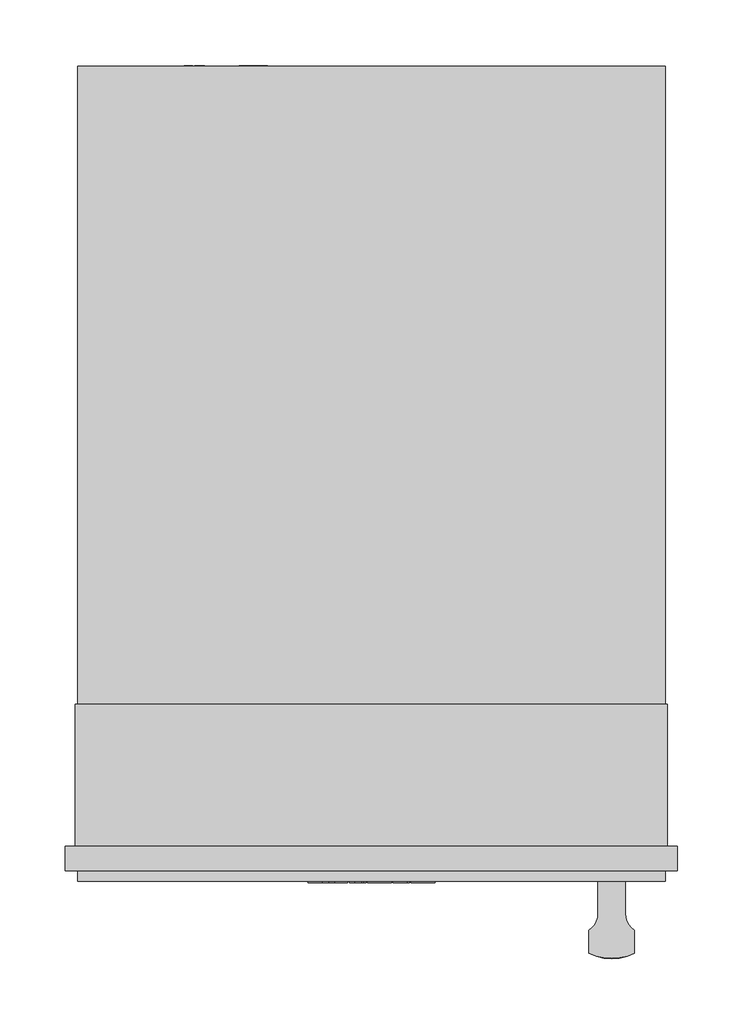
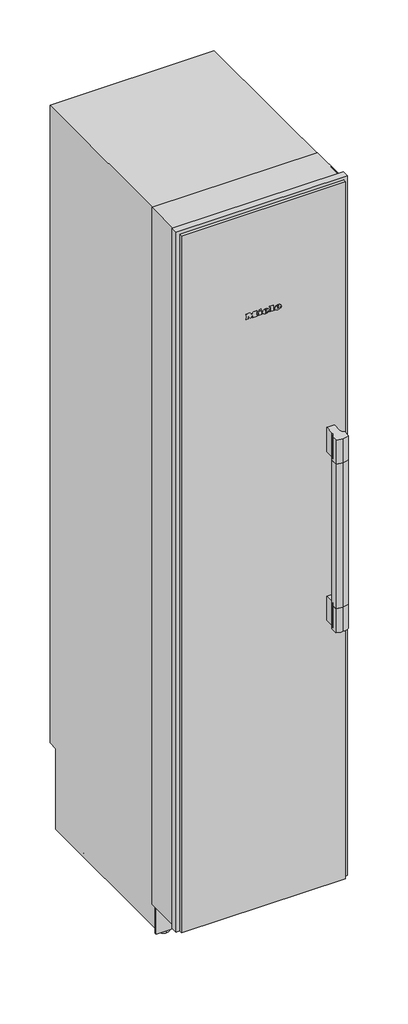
# Not in any storey: 1 proxy.
"""IFC4 building model written with IfcOpenShell, lengths in millimetres."""

from ifc_helpers import new_model, si_unit, origin, place, context, project, spatial, transform, mapped, element, save
from components import specialty_equipment_9d6fc806

model = new_model("IFC4")

# Units and contexts
model_context = context("Model", 3, world=origin())
ifc_project = project(units=[si_unit("LENGTHUNIT", "METRE", prefix="MILLI")], contexts=[model_context])

# Site, building
site = spatial("IfcSite", under=ifc_project)
building = spatial("IfcBuilding", under=site)

# Proxy
placement = place(None, origin())
specialty_equipment_shape = specialty_equipment_9d6fc806(model_context)
element("IfcBuildingElementProxy", 1, Name="11503310_USA_F2412SF : 37241211_USA_11503310_F2412SF", ObjectType="11503310_USA_F2412SF : 37241211_USA_11503310_F2412SF", at=placement, inside=building, context=model_context, shape_type="MappedRepresentation", body=[
    mapped(specialty_equipment_shape, transform((0.0, 0.0, 0.0), x_axis=(1.0, 0.0, 0.0), y_axis=(0.0, 1.0, 0.0), z_axis=(0.0, 0.0, 1.0))),
])

save(model, "model.ifc")
